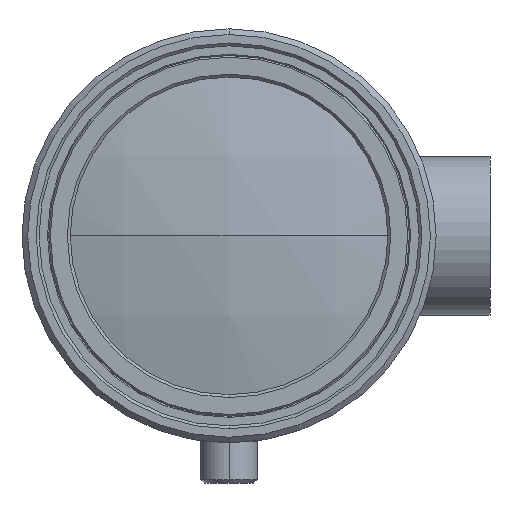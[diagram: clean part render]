
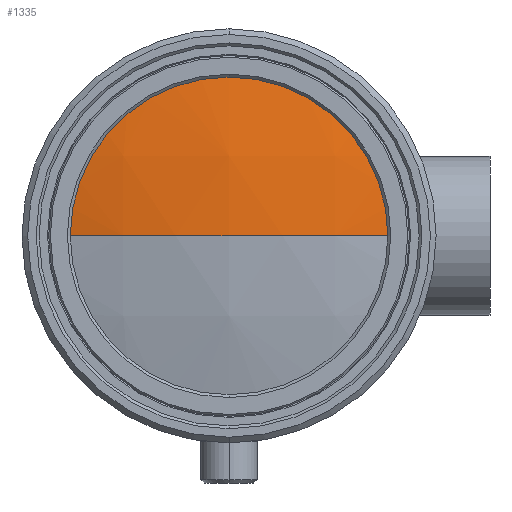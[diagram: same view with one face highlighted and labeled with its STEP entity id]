
A CAD part, left-side view. The second image highlights one B-rep face of the part: STEP entity #1335.
In plain terms, the highlighted spherical face has radius 60 mm.
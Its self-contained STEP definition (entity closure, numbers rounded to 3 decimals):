
#14 = AXIS2_PLACEMENT_3D ( 'NONE', #1708, #3770, #2001 ) ;
#41 = VERTEX_POINT ( 'NONE', #53 ) ;
#47 = AXIS2_PLACEMENT_3D ( 'NONE', #3341, #1579, #3639 ) ;
#53 = CARTESIAN_POINT ( 'NONE',  ( -118.844, -14., 0. ) ) ;
#56 = VERTEX_POINT ( 'NONE', #1504 ) ;
#66 = SPHERICAL_SURFACE ( 'NONE', #1963, 60. ) ;
#142 = AXIS2_PLACEMENT_3D ( 'NONE', #535, #2576, #833 ) ;
#235 = DIRECTION ( 'NONE',  ( 0., 1., 0. ) ) ;
#408 = ORIENTED_EDGE ( 'NONE', *, *, #1995, .F. ) ;
#535 = CARTESIAN_POINT ( 'NONE',  ( -118.844, 0., 0. ) ) ;
#563 = CARTESIAN_POINT ( 'NONE',  ( -118.844, 14., 0. ) ) ;
#642 = DIRECTION ( 'NONE',  ( 0., 0., -1. ) ) ;
#833 = DIRECTION ( 'NONE',  ( 0., 0., -1. ) ) ;
#1030 = ORIENTED_EDGE ( 'NONE', *, *, #2173, .F. ) ;
#1102 = DIRECTION ( 'NONE',  ( 0., 0., 1. ) ) ;
#1335 = ADVANCED_FACE ( 'NONE', ( #2398 ), #66, .T. ) ;
#1410 = VERTEX_POINT ( 'NONE', #563 ) ;
#1487 = AXIS2_PLACEMENT_3D ( 'NONE', #2391, #642, #2685 ) ;
#1504 = CARTESIAN_POINT ( 'NONE',  ( -120.5, 0., 0. ) ) ;
#1579 = DIRECTION ( 'NONE',  ( 1., 0., 0. ) ) ;
#1691 = CARTESIAN_POINT ( 'NONE',  ( -60.5, 0., 0. ) ) ;
#1708 = CARTESIAN_POINT ( 'NONE',  ( -60.5, 0., 0. ) ) ;
#1812 = CARTESIAN_POINT ( 'NONE',  ( -118.844, 0., 14. ) ) ;
#1834 = CIRCLE ( 'NONE', #142, 14. ) ;
#1840 = EDGE_LOOP ( 'NONE', ( #408, #2003, #1030, #2103 ) ) ;
#1963 = AXIS2_PLACEMENT_3D ( 'NONE', #1691, #1102, #235 ) ;
#1995 = EDGE_CURVE ( 'NONE', #56, #1410, #2723, .T. ) ;
#2001 = DIRECTION ( 'NONE',  ( 0., -1., 0. ) ) ;
#2003 = ORIENTED_EDGE ( 'NONE', *, *, #2829, .T. ) ;
#2103 = ORIENTED_EDGE ( 'NONE', *, *, #3432, .F. ) ;
#2173 = EDGE_CURVE ( 'NONE', #2791, #41, #3057, .T. ) ;
#2179 = CIRCLE ( 'NONE', #14, 60. ) ;
#2391 = CARTESIAN_POINT ( 'NONE',  ( -60.5, 0., 0. ) ) ;
#2398 = FACE_OUTER_BOUND ( 'NONE', #1840, .T. ) ;
#2576 = DIRECTION ( 'NONE',  ( 1., 0., 0. ) ) ;
#2685 = DIRECTION ( 'NONE',  ( -1., 0., 0. ) ) ;
#2723 = CIRCLE ( 'NONE', #1487, 60. ) ;
#2791 = VERTEX_POINT ( 'NONE', #1812 ) ;
#2829 = EDGE_CURVE ( 'NONE', #56, #41, #2179, .T. ) ;
#3057 = CIRCLE ( 'NONE', #47, 14. ) ;
#3341 = CARTESIAN_POINT ( 'NONE',  ( -118.844, 0., 0. ) ) ;
#3432 = EDGE_CURVE ( 'NONE', #1410, #2791, #1834, .T. ) ;
#3639 = DIRECTION ( 'NONE',  ( 0., 0., -1. ) ) ;
#3770 = DIRECTION ( 'NONE',  ( 0., 0., 1. ) ) ;
